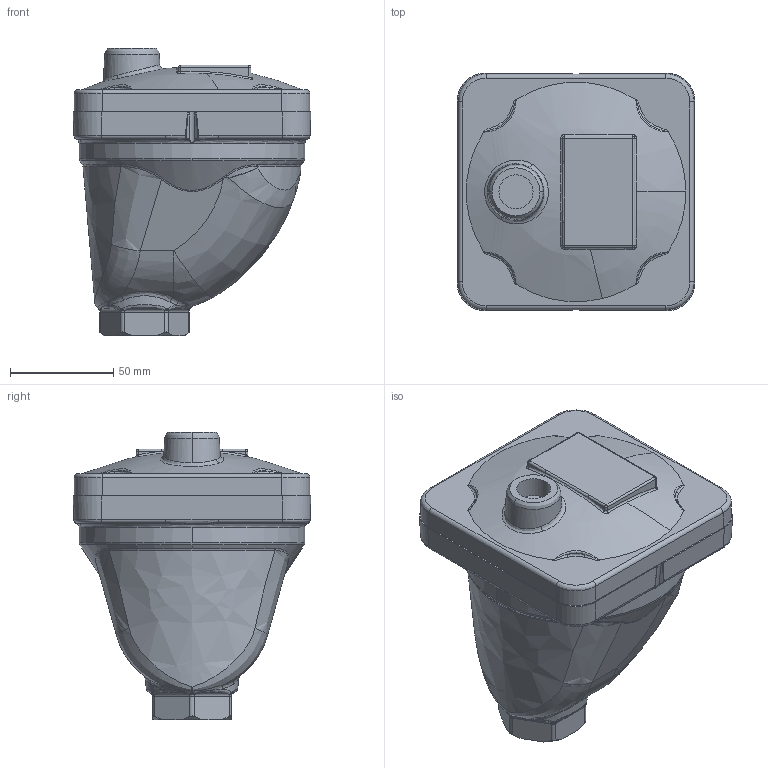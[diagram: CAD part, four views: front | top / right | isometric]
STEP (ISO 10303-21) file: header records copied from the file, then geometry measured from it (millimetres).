
FILE_DESCRIPTION( (''), '2;1');
FILE_NAME ('PC1027.1644.TA-3　15A_22640.stp','2025-07-04T11:08:28',(''),(''),'spGate 19.8.4 (****-****-****-****)','','');
FILE_SCHEMA (('AUTOMOTIVE_DESIGN'));
Length unit declared in the file: millimetre
Products named in the file (3): Assembly; TA-3　15Ａ; TA-3　15A　本体
Assembly tree (2 placements, depth 2):
  Assembly
    TA-3　15Ａ
    TA-3　15A　本体
Bounding box: 114.92 x 114.92 x 139 mm (x, y, z)
Volume: 433815.2 mm3; surface area: 100026 mm2
Topology: 2 solids, 2 shells, 288 faces, 701 edges, 413 vertices
Faces by surface type: bspline 162, cylinder 72, plane 44, sphere 10
Entity records: 27249 total; most frequent: CARTESIAN_POINT 16213, ORIENTED_EDGE 1380, COLOUR_RGB 980, PRESENTATION_STYLE_ASSIGNMENT 980, STYLED_ITEM 980, DIRECTION 873, EDGE_CURVE 690, DRAUGHTING_PRE_DEFINED_CURVE_FONT 690
